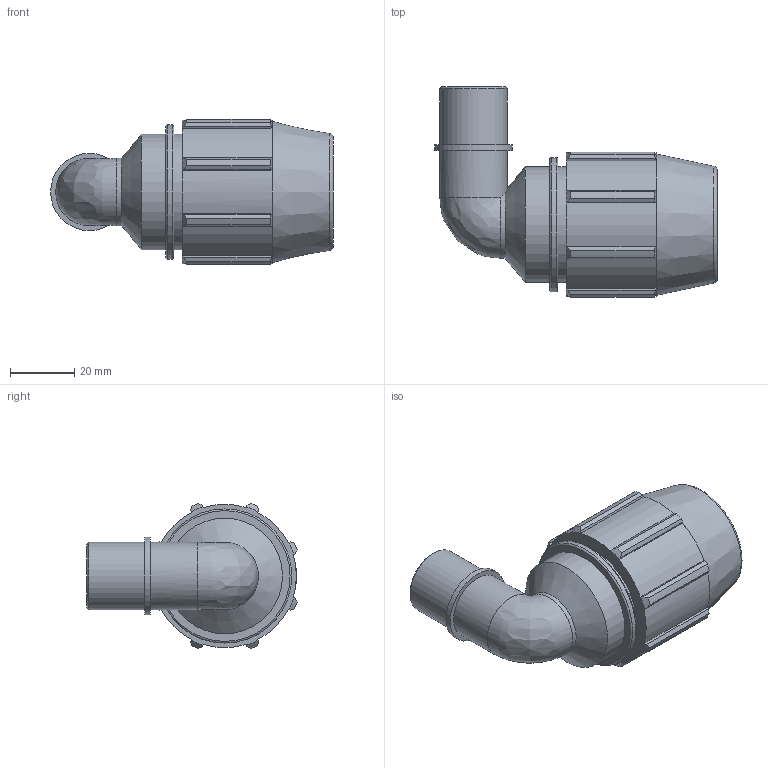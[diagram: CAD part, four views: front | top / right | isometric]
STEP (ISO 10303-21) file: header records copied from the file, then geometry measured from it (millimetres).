
FILE_DESCRIPTION(/* description */ ('PLASSON 90° ELBOW MALE ADAPTOR 3/4''''-1/2''''M'),/* implementation_level */ '2;1');
FILE_NAME(/* name */ 'C:\Dropbox\KIMPROJECTS-Inventor 2019\99-16-3568-Processing Inch\ASTM Compression 2021\0785M0\0785M0007005.ipt.stp',/* time_stamp */ '2021-08-26T12:35:31+03:00',/* author */ ('KIM'),/* organization */ (''),/* preprocessor_version */ 'ST-DEVELOPER v17.2',/* originating_system */ 'Autodesk Inventor 2019',/* authorisation */ '');
FILE_SCHEMA (('AUTOMOTIVE_DESIGN { 1 0 10303 214 3 1 1 }'));
Length unit declared in the file: inch
Products named in the file (1): 0785M0007005
Bounding box: 88 x 65.51 x 45.17 mm (x, y, z)
Volume: 62365.7 mm3; surface area: 22550.8 mm2
Topology: 1 solids, 1 shells, 86 faces, 249 edges, 170 vertices
Faces by surface type: plane 41, cylinder 26, cone 14, torus 4, bspline 1
Full cylindrical faces by diameter (mm): 14.668 x2, 20.955 x2, 24.098 x1, 26.6 x1, 36.005 x2, 41.765 x1
Entity records: 3030 total; most frequent: CARTESIAN_POINT 608, ORIENTED_EDGE 494, DIRECTION 487, EDGE_CURVE 247, AXIS2_PLACEMENT_3D 188, VERTEX_POINT 170, LINE 111, VECTOR 111
